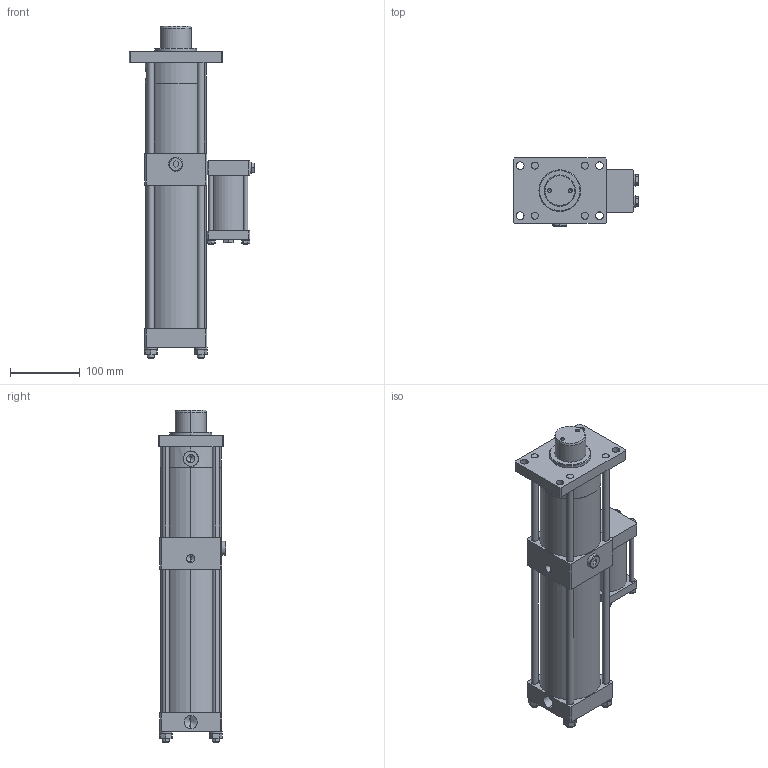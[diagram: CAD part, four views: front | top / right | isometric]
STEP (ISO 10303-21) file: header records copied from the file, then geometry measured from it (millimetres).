
FILE_DESCRIPTION (( 'STEP AP214' ), '1' );
FILE_NAME ('PCS3 8045 VC13.STEP', '2016-02-18T09:16:30', ( 'Admin' ), ( '' ), 'SwSTEP 2.0', 'SolidWorks 2015', '' );
FILE_SCHEMA (( 'AUTOMOTIVE_DESIGN' ));
Length unit declared in the file: millimetre
Products named in the file (8): PCS3 8045 VC13; hexagon nut style 1_is_IS 1364-3 - M10-W-N; spring lock washer 3063_is_IS 3063- 10-A; hhb(grade a)_is_IS 1364 HHB(Grade A) - M8 x 40 x 22-N; plain washer (type a)_is_IS 2016 A- 9; hexagon nut style 1_is_IS 1364-3 - M6-W-N; spring lock washer 6735_is_IS 6735- 6; PCS3 8045 VC09_PCS3 8045 VC13
Assembly tree (21 placements, depth 2):
  PCS3 8045 VC13
    PCS3 8045 VC09_PCS3 8045 VC13
    spring lock washer 6735_is_IS 6735- 6  x4
    hexagon nut style 1_is_IS 1364-3 - M6-W-N  x4
    plain washer (type a)_is_IS 2016 A- 9  x2
    hhb(grade a)_is_IS 1364 HHB(Grade A) - M8 x 40 x 22-N  x2
    spring lock washer 3063_is_IS 3063- 10-A  x4
    hexagon nut style 1_is_IS 1364-3 - M10-W-N  x4
Bounding box: 180.4 x 97.5 x 477 mm (x, y, z)
Volume: 3111854.1 mm3; surface area: 299828.8 mm2
Topology: 21 solids, 22 shells, 655 faces, 1511 edges, 923 vertices
Faces by surface type: plane 273, cylinder 200, cone 144, torus 38
Entity records: 11121 total; most frequent: CARTESIAN_POINT 2098, DIRECTION 1805, ORIENTED_EDGE 1606, EDGE_CURVE 803, AXIS2_PLACEMENT_3D 697, VERTEX_POINT 504, EDGE_LOOP 425, VECTOR 411
